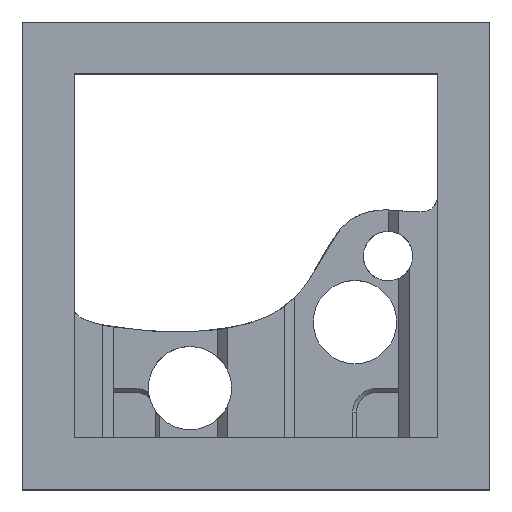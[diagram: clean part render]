
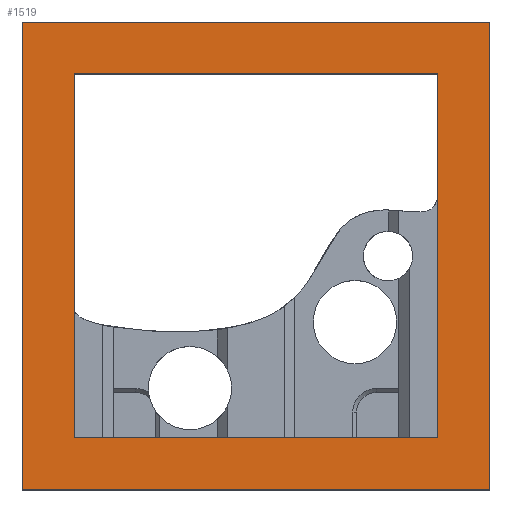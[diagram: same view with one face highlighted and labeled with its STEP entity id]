
A CAD part, top view. The second image highlights one B-rep face of the part: STEP entity #1519.
In plain terms, the highlighted planar face has unit normal (0, 0, 1).
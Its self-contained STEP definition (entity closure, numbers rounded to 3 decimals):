
#44 = PLANE('',#45);
#45 = AXIS2_PLACEMENT_3D('',#46,#47,#48);
#46 = CARTESIAN_POINT('',(-9.6,9.,0.));
#47 = DIRECTION('',(0.,1.,0.));
#48 = DIRECTION('',(0.,0.,-1.));
#72 = PLANE('',#73);
#73 = AXIS2_PLACEMENT_3D('',#74,#75,#76);
#74 = CARTESIAN_POINT('',(9.,-9.6,0.));
#75 = DIRECTION('',(1.,0.,0.));
#76 = DIRECTION('',(0.,0.,-1.));
#100 = PLANE('',#101);
#101 = AXIS2_PLACEMENT_3D('',#102,#103,#104);
#102 = CARTESIAN_POINT('',(-9.6,-9.,0.));
#103 = DIRECTION('',(0.,1.,0.));
#104 = DIRECTION('',(0.,0.,-1.));
#126 = PLANE('',#127);
#127 = AXIS2_PLACEMENT_3D('',#128,#129,#130);
#128 = CARTESIAN_POINT('',(-9.,-9.6,0.));
#129 = DIRECTION('',(1.,0.,0.));
#130 = DIRECTION('',(0.,0.,-1.));
#208 = PLANE('',#209);
#209 = AXIS2_PLACEMENT_3D('',#210,#211,#212);
#210 = CARTESIAN_POINT('',(7.,-7.2,0.));
#211 = DIRECTION('',(1.,0.,0.));
#212 = DIRECTION('',(0.,0.,-1.));
#236 = PLANE('',#237);
#237 = AXIS2_PLACEMENT_3D('',#238,#239,#240);
#238 = CARTESIAN_POINT('',(-7.2,7.,0.));
#239 = DIRECTION('',(0.,1.,0.));
#240 = DIRECTION('',(0.,0.,-1.));
#262 = PLANE('',#263);
#263 = AXIS2_PLACEMENT_3D('',#264,#265,#266);
#264 = CARTESIAN_POINT('',(-7.,-7.2,0.));
#265 = DIRECTION('',(1.,0.,0.));
#266 = DIRECTION('',(0.,0.,-1.));
#418 = VERTEX_POINT('',#419);
#419 = CARTESIAN_POINT('',(-9.,9.,0.));
#440 = EDGE_CURVE('',#441,#418,#443,.T.);
#441 = VERTEX_POINT('',#442);
#442 = CARTESIAN_POINT('',(-9.,-9.,0.));
#443 = SURFACE_CURVE('',#444,(#448,#455),.PCURVE_S1.);
#444 = LINE('',#445,#446);
#445 = CARTESIAN_POINT('',(-9.,-9.6,0.));
#446 = VECTOR('',#447,1.);
#447 = DIRECTION('',(0.,1.,0.));
#448 = PCURVE('',#126,#449);
#449 = DEFINITIONAL_REPRESENTATION('',(#450),#454);
#450 = LINE('',#451,#452);
#451 = CARTESIAN_POINT('',(0.,0.));
#452 = VECTOR('',#453,1.);
#453 = DIRECTION('',(0.,1.));
#454 = ( GEOMETRIC_REPRESENTATION_CONTEXT(2) 
PARAMETRIC_REPRESENTATION_CONTEXT() REPRESENTATION_CONTEXT('2D SPACE',''
  ) );
#455 = PCURVE('',#456,#461);
#456 = PLANE('',#457);
#457 = AXIS2_PLACEMENT_3D('',#458,#459,#460);
#458 = CARTESIAN_POINT('',(-9.6,-9.6,0.));
#459 = DIRECTION('',(0.,0.,-1.));
#460 = DIRECTION('',(1.,0.,0.));
#461 = DEFINITIONAL_REPRESENTATION('',(#462),#466);
#462 = LINE('',#463,#464);
#463 = CARTESIAN_POINT('',(0.6,0.));
#464 = VECTOR('',#465,1.);
#465 = DIRECTION('',(0.,-1.));
#466 = ( GEOMETRIC_REPRESENTATION_CONTEXT(2) 
PARAMETRIC_REPRESENTATION_CONTEXT() REPRESENTATION_CONTEXT('2D SPACE',''
  ) );
#493 = VERTEX_POINT('',#494);
#494 = CARTESIAN_POINT('',(-7.,7.,0.));
#515 = EDGE_CURVE('',#516,#493,#518,.T.);
#516 = VERTEX_POINT('',#517);
#517 = CARTESIAN_POINT('',(-7.,-7.,0.));
#518 = SURFACE_CURVE('',#519,(#523,#530),.PCURVE_S1.);
#519 = LINE('',#520,#521);
#520 = CARTESIAN_POINT('',(-7.,-9.6,0.));
#521 = VECTOR('',#522,1.);
#522 = DIRECTION('',(0.,1.,0.));
#523 = PCURVE('',#262,#524);
#524 = DEFINITIONAL_REPRESENTATION('',(#525),#529);
#525 = LINE('',#526,#527);
#526 = CARTESIAN_POINT('',(0.,-2.4));
#527 = VECTOR('',#528,1.);
#528 = DIRECTION('',(0.,1.));
#529 = ( GEOMETRIC_REPRESENTATION_CONTEXT(2) 
PARAMETRIC_REPRESENTATION_CONTEXT() REPRESENTATION_CONTEXT('2D SPACE',''
  ) );
#530 = PCURVE('',#456,#531);
#531 = DEFINITIONAL_REPRESENTATION('',(#532),#536);
#532 = LINE('',#533,#534);
#533 = CARTESIAN_POINT('',(2.6,0.));
#534 = VECTOR('',#535,1.);
#535 = DIRECTION('',(0.,-1.));
#536 = ( GEOMETRIC_REPRESENTATION_CONTEXT(2) 
PARAMETRIC_REPRESENTATION_CONTEXT() REPRESENTATION_CONTEXT('2D SPACE',''
  ) );
#554 = PLANE('',#555);
#555 = AXIS2_PLACEMENT_3D('',#556,#557,#558);
#556 = CARTESIAN_POINT('',(-7.2,-7.,0.));
#557 = DIRECTION('',(0.,1.,0.));
#558 = DIRECTION('',(0.,0.,-1.));
#1116 = VERTEX_POINT('',#1117);
#1117 = CARTESIAN_POINT('',(7.,7.,0.));
#1138 = EDGE_CURVE('',#1139,#1116,#1141,.T.);
#1139 = VERTEX_POINT('',#1140);
#1140 = CARTESIAN_POINT('',(7.,-7.,0.));
#1141 = SURFACE_CURVE('',#1142,(#1146,#1153),.PCURVE_S1.);
#1142 = LINE('',#1143,#1144);
#1143 = CARTESIAN_POINT('',(7.,-9.6,0.));
#1144 = VECTOR('',#1145,1.);
#1145 = DIRECTION('',(0.,1.,0.));
#1146 = PCURVE('',#208,#1147);
#1147 = DEFINITIONAL_REPRESENTATION('',(#1148),#1152);
#1148 = LINE('',#1149,#1150);
#1149 = CARTESIAN_POINT('',(0.,-2.4));
#1150 = VECTOR('',#1151,1.);
#1151 = DIRECTION('',(0.,1.));
#1152 = ( GEOMETRIC_REPRESENTATION_CONTEXT(2) 
PARAMETRIC_REPRESENTATION_CONTEXT() REPRESENTATION_CONTEXT('2D SPACE',''
  ) );
#1153 = PCURVE('',#456,#1154);
#1154 = DEFINITIONAL_REPRESENTATION('',(#1155),#1159);
#1155 = LINE('',#1156,#1157);
#1156 = CARTESIAN_POINT('',(16.6,0.));
#1157 = VECTOR('',#1158,1.);
#1158 = DIRECTION('',(0.,-1.));
#1159 = ( GEOMETRIC_REPRESENTATION_CONTEXT(2) 
PARAMETRIC_REPRESENTATION_CONTEXT() REPRESENTATION_CONTEXT('2D SPACE',''
  ) );
#1186 = VERTEX_POINT('',#1187);
#1187 = CARTESIAN_POINT('',(9.,-9.,0.));
#1210 = VERTEX_POINT('',#1211);
#1211 = CARTESIAN_POINT('',(9.,9.,0.));
#1232 = EDGE_CURVE('',#1186,#1210,#1233,.T.);
#1233 = SURFACE_CURVE('',#1234,(#1238,#1245),.PCURVE_S1.);
#1234 = LINE('',#1235,#1236);
#1235 = CARTESIAN_POINT('',(9.,-9.6,0.));
#1236 = VECTOR('',#1237,1.);
#1237 = DIRECTION('',(0.,1.,0.));
#1238 = PCURVE('',#72,#1239);
#1239 = DEFINITIONAL_REPRESENTATION('',(#1240),#1244);
#1240 = LINE('',#1241,#1242);
#1241 = CARTESIAN_POINT('',(0.,0.));
#1242 = VECTOR('',#1243,1.);
#1243 = DIRECTION('',(0.,1.));
#1244 = ( GEOMETRIC_REPRESENTATION_CONTEXT(2) 
PARAMETRIC_REPRESENTATION_CONTEXT() REPRESENTATION_CONTEXT('2D SPACE',''
  ) );
#1245 = PCURVE('',#456,#1246);
#1246 = DEFINITIONAL_REPRESENTATION('',(#1247),#1251);
#1247 = LINE('',#1248,#1249);
#1248 = CARTESIAN_POINT('',(18.6,0.));
#1249 = VECTOR('',#1250,1.);
#1250 = DIRECTION('',(0.,-1.));
#1251 = ( GEOMETRIC_REPRESENTATION_CONTEXT(2) 
PARAMETRIC_REPRESENTATION_CONTEXT() REPRESENTATION_CONTEXT('2D SPACE',''
  ) );
#1258 = EDGE_CURVE('',#441,#1186,#1259,.T.);
#1259 = SURFACE_CURVE('',#1260,(#1264,#1271),.PCURVE_S1.);
#1260 = LINE('',#1261,#1262);
#1261 = CARTESIAN_POINT('',(-9.6,-9.,0.));
#1262 = VECTOR('',#1263,1.);
#1263 = DIRECTION('',(1.,0.,0.));
#1264 = PCURVE('',#100,#1265);
#1265 = DEFINITIONAL_REPRESENTATION('',(#1266),#1270);
#1266 = LINE('',#1267,#1268);
#1267 = CARTESIAN_POINT('',(0.,0.));
#1268 = VECTOR('',#1269,1.);
#1269 = DIRECTION('',(0.,-1.));
#1270 = ( GEOMETRIC_REPRESENTATION_CONTEXT(2) 
PARAMETRIC_REPRESENTATION_CONTEXT() REPRESENTATION_CONTEXT('2D SPACE',''
  ) );
#1271 = PCURVE('',#456,#1272);
#1272 = DEFINITIONAL_REPRESENTATION('',(#1273),#1277);
#1273 = LINE('',#1274,#1275);
#1274 = CARTESIAN_POINT('',(0.,-0.6));
#1275 = VECTOR('',#1276,1.);
#1276 = DIRECTION('',(1.,0.));
#1277 = ( GEOMETRIC_REPRESENTATION_CONTEXT(2) 
PARAMETRIC_REPRESENTATION_CONTEXT() REPRESENTATION_CONTEXT('2D SPACE',''
  ) );
#1519 = ADVANCED_FACE('',(#1520,#1546),#456,.F.);
#1520 = FACE_BOUND('',#1521,.T.);
#1521 = EDGE_LOOP('',(#1522,#1543,#1544,#1545));
#1522 = ORIENTED_EDGE('',*,*,#1523,.F.);
#1523 = EDGE_CURVE('',#418,#1210,#1524,.T.);
#1524 = SURFACE_CURVE('',#1525,(#1529,#1536),.PCURVE_S1.);
#1525 = LINE('',#1526,#1527);
#1526 = CARTESIAN_POINT('',(-9.6,9.,0.));
#1527 = VECTOR('',#1528,1.);
#1528 = DIRECTION('',(1.,0.,0.));
#1529 = PCURVE('',#456,#1530);
#1530 = DEFINITIONAL_REPRESENTATION('',(#1531),#1535);
#1531 = LINE('',#1532,#1533);
#1532 = CARTESIAN_POINT('',(0.,-18.6));
#1533 = VECTOR('',#1534,1.);
#1534 = DIRECTION('',(1.,0.));
#1535 = ( GEOMETRIC_REPRESENTATION_CONTEXT(2) 
PARAMETRIC_REPRESENTATION_CONTEXT() REPRESENTATION_CONTEXT('2D SPACE',''
  ) );
#1536 = PCURVE('',#44,#1537);
#1537 = DEFINITIONAL_REPRESENTATION('',(#1538),#1542);
#1538 = LINE('',#1539,#1540);
#1539 = CARTESIAN_POINT('',(0.,0.));
#1540 = VECTOR('',#1541,1.);
#1541 = DIRECTION('',(0.,-1.));
#1542 = ( GEOMETRIC_REPRESENTATION_CONTEXT(2) 
PARAMETRIC_REPRESENTATION_CONTEXT() REPRESENTATION_CONTEXT('2D SPACE',''
  ) );
#1543 = ORIENTED_EDGE('',*,*,#440,.F.);
#1544 = ORIENTED_EDGE('',*,*,#1258,.T.);
#1545 = ORIENTED_EDGE('',*,*,#1232,.T.);
#1546 = FACE_BOUND('',#1547,.T.);
#1547 = EDGE_LOOP('',(#1548,#1549,#1570,#1571));
#1548 = ORIENTED_EDGE('',*,*,#515,.T.);
#1549 = ORIENTED_EDGE('',*,*,#1550,.T.);
#1550 = EDGE_CURVE('',#493,#1116,#1551,.T.);
#1551 = SURFACE_CURVE('',#1552,(#1556,#1563),.PCURVE_S1.);
#1552 = LINE('',#1553,#1554);
#1553 = CARTESIAN_POINT('',(-7.2,7.,0.));
#1554 = VECTOR('',#1555,1.);
#1555 = DIRECTION('',(1.,0.,0.));
#1556 = PCURVE('',#456,#1557);
#1557 = DEFINITIONAL_REPRESENTATION('',(#1558),#1562);
#1558 = LINE('',#1559,#1560);
#1559 = CARTESIAN_POINT('',(2.4,-16.6));
#1560 = VECTOR('',#1561,1.);
#1561 = DIRECTION('',(1.,0.));
#1562 = ( GEOMETRIC_REPRESENTATION_CONTEXT(2) 
PARAMETRIC_REPRESENTATION_CONTEXT() REPRESENTATION_CONTEXT('2D SPACE',''
  ) );
#1563 = PCURVE('',#236,#1564);
#1564 = DEFINITIONAL_REPRESENTATION('',(#1565),#1569);
#1565 = LINE('',#1566,#1567);
#1566 = CARTESIAN_POINT('',(0.,0.));
#1567 = VECTOR('',#1568,1.);
#1568 = DIRECTION('',(0.,-1.));
#1569 = ( GEOMETRIC_REPRESENTATION_CONTEXT(2) 
PARAMETRIC_REPRESENTATION_CONTEXT() REPRESENTATION_CONTEXT('2D SPACE',''
  ) );
#1570 = ORIENTED_EDGE('',*,*,#1138,.F.);
#1571 = ORIENTED_EDGE('',*,*,#1572,.F.);
#1572 = EDGE_CURVE('',#516,#1139,#1573,.T.);
#1573 = SURFACE_CURVE('',#1574,(#1578,#1585),.PCURVE_S1.);
#1574 = LINE('',#1575,#1576);
#1575 = CARTESIAN_POINT('',(-7.2,-7.,0.));
#1576 = VECTOR('',#1577,1.);
#1577 = DIRECTION('',(1.,0.,0.));
#1578 = PCURVE('',#456,#1579);
#1579 = DEFINITIONAL_REPRESENTATION('',(#1580),#1584);
#1580 = LINE('',#1581,#1582);
#1581 = CARTESIAN_POINT('',(2.4,-2.6));
#1582 = VECTOR('',#1583,1.);
#1583 = DIRECTION('',(1.,0.));
#1584 = ( GEOMETRIC_REPRESENTATION_CONTEXT(2) 
PARAMETRIC_REPRESENTATION_CONTEXT() REPRESENTATION_CONTEXT('2D SPACE',''
  ) );
#1585 = PCURVE('',#554,#1586);
#1586 = DEFINITIONAL_REPRESENTATION('',(#1587),#1591);
#1587 = LINE('',#1588,#1589);
#1588 = CARTESIAN_POINT('',(0.,0.));
#1589 = VECTOR('',#1590,1.);
#1590 = DIRECTION('',(0.,-1.));
#1591 = ( GEOMETRIC_REPRESENTATION_CONTEXT(2) 
PARAMETRIC_REPRESENTATION_CONTEXT() REPRESENTATION_CONTEXT('2D SPACE',''
  ) );
